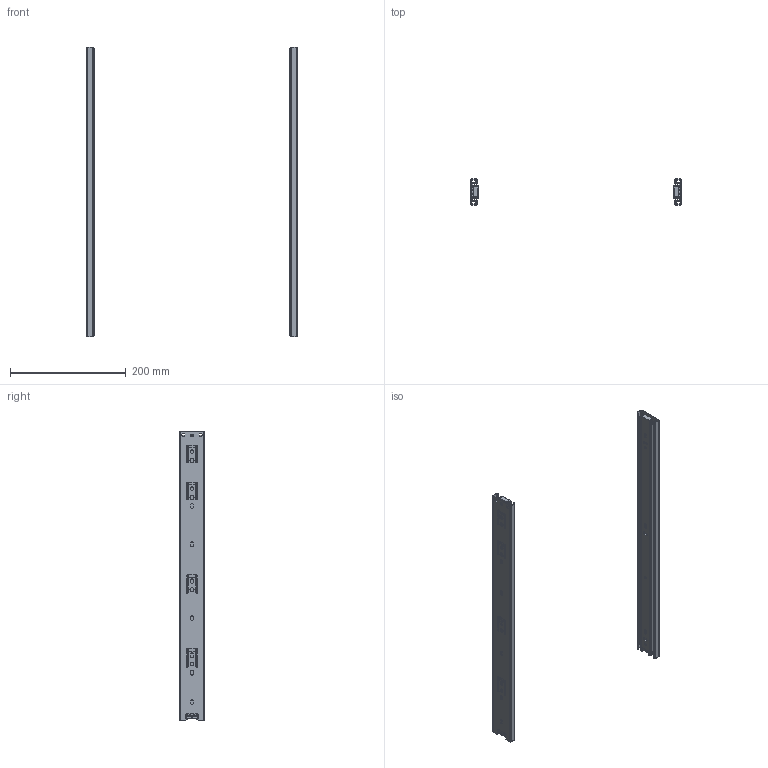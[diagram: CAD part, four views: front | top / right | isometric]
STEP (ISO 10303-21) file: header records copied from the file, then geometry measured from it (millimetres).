
FILE_DESCRIPTION(/* description */ (''),/* implementation_level */ '2;1');
FILE_NAME(/* name */ 'D:\$Workingspace\Designs\Katalog\Cadsoft\GTV Prowadnice\PK-PRO-H45\PK-PRO-H45-500.stp',/* time_stamp */ '2021-01-15T13:16:51+01:00',/* author */ ('tomaszw'),/* organization */ (''),/* preprocessor_version */ 'ST-DEVELOPER v18.1',/* originating_system */ 'Autodesk Inventor 2020',/* authorisation */ '');
FILE_SCHEMA (('AUTOMOTIVE_DESIGN { 1 0 10303 214 3 1 1 }'));
Length unit declared in the file: millimetre
Products named in the file (5): PK-PRO-H45-500; Blokada_4; PK-PRO-H45_1-500; PK-PRO-H45_2-500; PK-PRO-H45_3-500
Assembly tree (8 placements, depth 2):
  PK-PRO-H45-500
    Blokada_4  x2
    PK-PRO-H45_1-500  x2
    PK-PRO-H45_2-500  x2
    PK-PRO-H45_3-500  x2
Bounding box: 364 x 44.5 x 500 mm (x, y, z)
Volume: 190883.8 mm3; surface area: 310944.1 mm2
Topology: 8 solids, 8 shells, 514 faces, 1502 edges, 1004 vertices
Faces by surface type: cylinder 262, plane 248, cone 4
Full cylindrical faces by diameter (mm): 4.5 x4, 5 x2, 5.2 x2, 6 x6, 7 x6
Entity records: 9327 total; most frequent: CARTESIAN_POINT 1627, DIRECTION 1551, ORIENTED_EDGE 1502, EDGE_CURVE 751, AXIS2_PLACEMENT_3D 538, VERTEX_POINT 502, LINE 475, VECTOR 475
